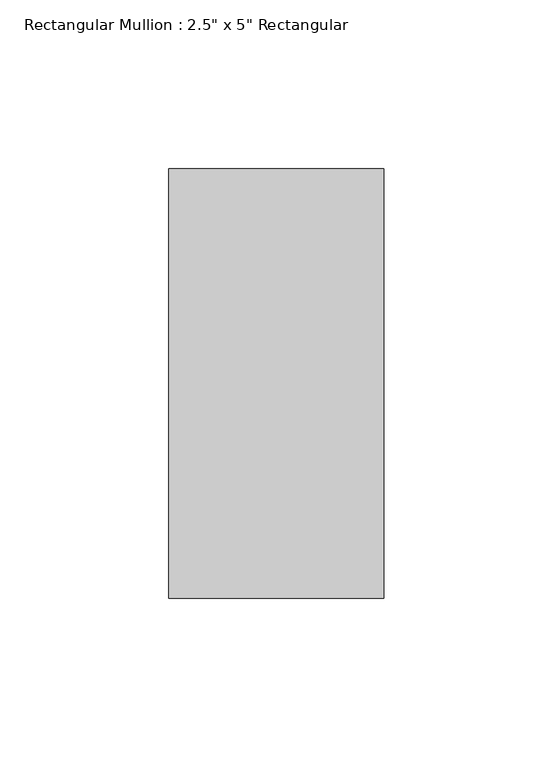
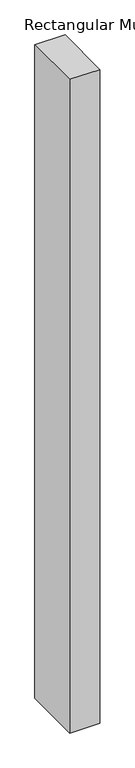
"""IFC4 building model written with IfcOpenShell, lengths in millimetres: member geometry."""

from ifc_helpers import new_model, si_unit, frame, origin, place, context, project, spatial, polyline, outline, extrude, source, transform, mapped, element, save


def member_d4faf497(model_context):
    return source(origin(), model_context, "Body", "SweptSolid", [
        extrude(outline(polyline([(0.0, 63.5), (0.0, -63.5), (-63.5, -63.5), (-63.5, 63.5), (0.0, 63.5)])), frame((0.0, 0.0, -1454.8329191), z_axis=(0.0, 0.0, 1.0), x_axis=(1.0, 0.0, 0.0)), (0.0, 0.0, 1.0), 1454.8329191),
    ])


if __name__ == "__main__":
    model = new_model("IFC4")
    model_context = context("Model", 3, world=origin())
    ifc_project = project(units=[si_unit("LENGTHUNIT", "METRE", prefix="MILLI")], contexts=[model_context])
    site = spatial("IfcSite", under=ifc_project)
    building = spatial("IfcBuilding", under=site)
    placement = place(None, origin())
    member_shape = member_d4faf497(model_context)
    element("IfcMember", 1, ObjectType="Rectangular Mullion : 2.5\" x 5\" Rectangular", at=placement, inside=building, context=model_context, shape_type="MappedRepresentation", body=[
        mapped(member_shape, transform((0.0, 0.0, 0.0), x_axis=(1.0, 0.0, 0.0), y_axis=(0.0, 1.0, 0.0), z_axis=(0.0, 0.0, 1.0))),
    ])
    save(model, "model.ifc")
